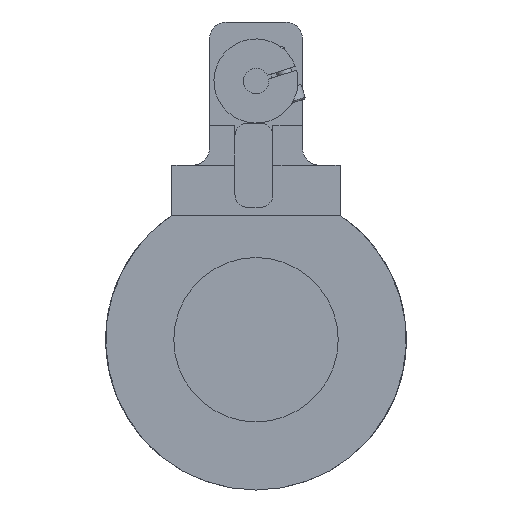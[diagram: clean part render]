
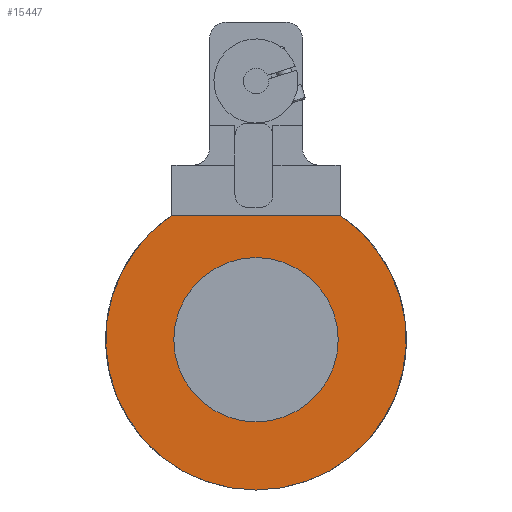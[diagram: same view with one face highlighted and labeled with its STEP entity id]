
A CAD part, front view. The second image highlights one B-rep face of the part: STEP entity #15447.
In plain terms, the highlighted planar face has unit normal (0, -1, 0).
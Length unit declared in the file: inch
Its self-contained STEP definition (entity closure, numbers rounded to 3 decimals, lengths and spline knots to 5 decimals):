
#3713 = DIRECTION ( 'NONE',  ( 0., -1., 0. ) ) ;
#5828 = PLANE ( 'NONE',  #30903 ) ;
#9722 = VERTEX_POINT ( 'NONE', #111859 ) ;
#10301 = CIRCLE ( 'NONE', #73961, 1.115 ) ;
#13439 = ORIENTED_EDGE ( 'NONE', *, *, #104739, .F. ) ;
#13643 = FACE_OUTER_BOUND ( 'NONE', #61294, .T. ) ;
#15447 = ADVANCED_FACE ( 'NONE', ( #86326, #13643 ), #5828, .T. ) ;
#22212 = AXIS2_PLACEMENT_3D ( 'NONE', #70537, #51130, #81417 ) ;
#26610 = CARTESIAN_POINT ( 'NONE',  ( 0., -1.625, 0.61 ) ) ;
#27274 = CIRCLE ( 'NONE', #31426, 0.61 ) ;
#30903 = AXIS2_PLACEMENT_3D ( 'NONE', #130942, #121838, #68942 ) ;
#31426 = AXIS2_PLACEMENT_3D ( 'NONE', #96781, #3713, #55191 ) ;
#40091 = ORIENTED_EDGE ( 'NONE', *, *, #124228, .T. ) ;
#44486 = DIRECTION ( 'NONE',  ( 0., -1., 0. ) ) ;
#45740 = EDGE_CURVE ( 'NONE', #64343, #70685, #10301, .T. ) ;
#49121 = EDGE_CURVE ( 'NONE', #57120, #9722, #133271, .T. ) ;
#51130 = DIRECTION ( 'NONE',  ( 0., -1., 0. ) ) ;
#55191 = DIRECTION ( 'NONE',  ( 0., 0., -1. ) ) ;
#57120 = VERTEX_POINT ( 'NONE', #26610 ) ;
#61292 = ORIENTED_EDGE ( 'NONE', *, *, #49121, .F. ) ;
#61294 = EDGE_LOOP ( 'NONE', ( #107246, #40091 ) ) ;
#63790 = DIRECTION ( 'NONE',  ( -1., 0., 0. ) ) ;
#64343 = VERTEX_POINT ( 'NONE', #78663 ) ;
#68419 = EDGE_LOOP ( 'NONE', ( #13439, #61292 ) ) ;
#68942 = DIRECTION ( 'NONE',  ( 0., 0., -1. ) ) ;
#70537 = CARTESIAN_POINT ( 'NONE',  ( 0., -1.625, 0. ) ) ;
#70685 = VERTEX_POINT ( 'NONE', #79588 ) ;
#72929 = VECTOR ( 'NONE', #63790, 39.37008 ) ;
#73310 = CARTESIAN_POINT ( 'NONE',  ( 0., -1.625, 0.92 ) ) ;
#73961 = AXIS2_PLACEMENT_3D ( 'NONE', #96006, #44486, #126283 ) ;
#78663 = CARTESIAN_POINT ( 'NONE',  ( -0.62994, -1.625, 0.92 ) ) ;
#79588 = CARTESIAN_POINT ( 'NONE',  ( 0.62994, -1.625, 0.92 ) ) ;
#81417 = DIRECTION ( 'NONE',  ( 0., 0., -1. ) ) ;
#86326 = FACE_BOUND ( 'NONE', #68419, .T. ) ;
#96006 = CARTESIAN_POINT ( 'NONE',  ( 0., -1.625, 0. ) ) ;
#96781 = CARTESIAN_POINT ( 'NONE',  ( 0., -1.625, 0. ) ) ;
#100498 = LINE ( 'NONE', #73310, #72929 ) ;
#104739 = EDGE_CURVE ( 'NONE', #9722, #57120, #27274, .T. ) ;
#107246 = ORIENTED_EDGE ( 'NONE', *, *, #45740, .T. ) ;
#111859 = CARTESIAN_POINT ( 'NONE',  ( 0., -1.625, -0.61 ) ) ;
#121838 = DIRECTION ( 'NONE',  ( 0., -1., 0. ) ) ;
#124228 = EDGE_CURVE ( 'NONE', #70685, #64343, #100498, .T. ) ;
#126283 = DIRECTION ( 'NONE',  ( 0., 0., -1. ) ) ;
#130942 = CARTESIAN_POINT ( 'NONE',  ( 0., -1.625, 0. ) ) ;
#133271 = CIRCLE ( 'NONE', #22212, 0.61 ) ;
